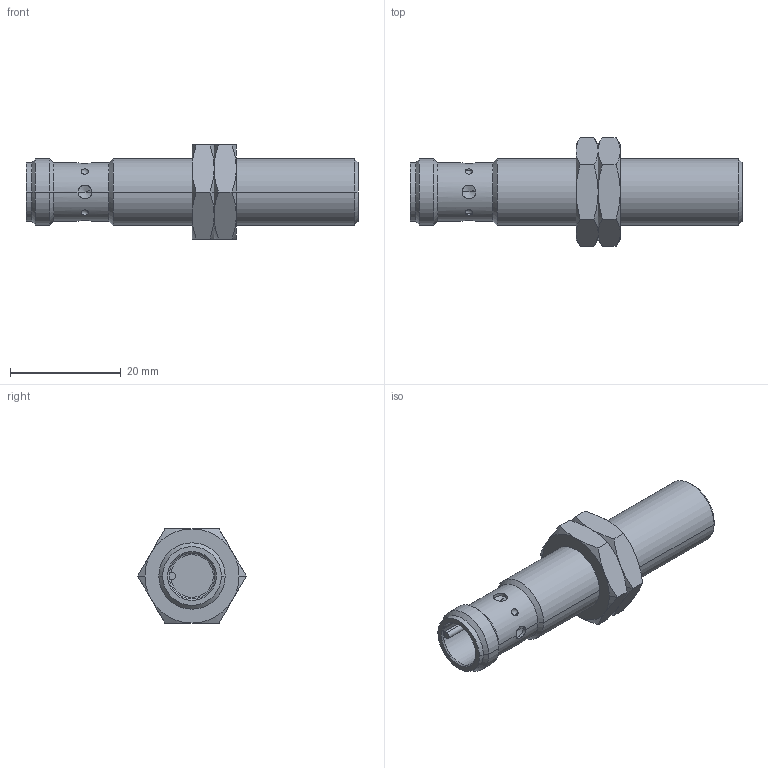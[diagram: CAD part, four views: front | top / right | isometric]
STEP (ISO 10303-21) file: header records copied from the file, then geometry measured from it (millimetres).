
FILE_DESCRIPTION( ( '' ), '1' );
FILE_NAME( '//expscmdclustefs.cadenas.external/client_exchange/iodir/jobs/output/wkb59772965_no0/STEP/IFS240_2_03.stp', '2013-06-25T11:56:52', ( '' ), ( '' ), ' ', ' ', ' ' );
FILE_SCHEMA( ( 'CONFIG_CONTROL_DESIGN' ) );
Length unit declared in the file: millimetre
Products named in the file (3): 1; 2; 3
Bounding box: 60 x 19.63 x 17 mm (x, y, z)
Volume: 7189.9 mm3; surface area: 4005.6 mm2
Topology: 3 solids, 3 shells, 122 faces, 286 edges, 163 vertices
Faces by surface type: cone 58, cylinder 27, plane 24, sphere 8, torus 5
Entity records: 3726 total; most frequent: CARTESIAN_POINT 1000, DIRECTION 560, ORIENTED_EDGE 540, EDGE_CURVE 270, AXIS2_PLACEMENT_3D 239, VERTEX_POINT 163, EDGE_LOOP 135, ADVANCED_FACE 122
